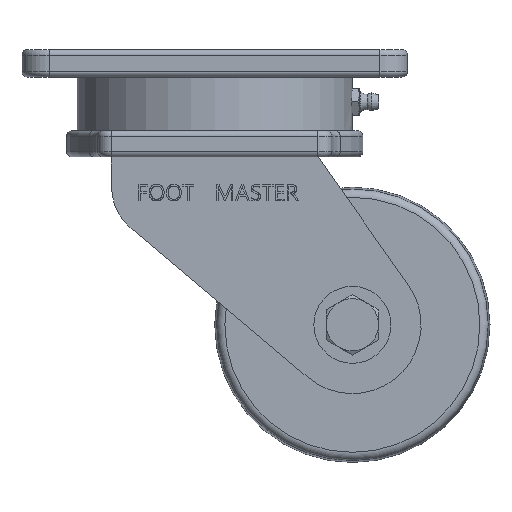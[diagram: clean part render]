
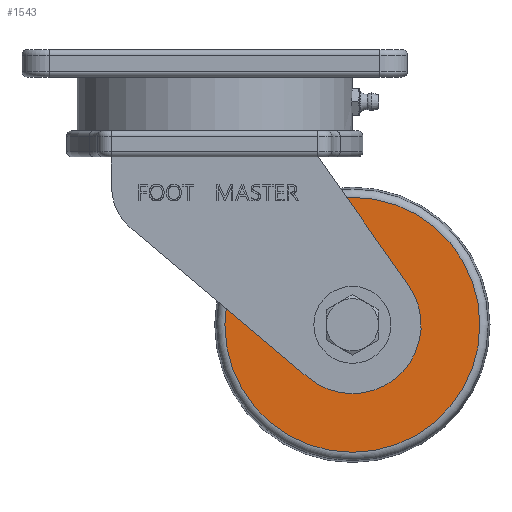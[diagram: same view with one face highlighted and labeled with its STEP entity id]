
A CAD part, front view. The second image highlights one B-rep face of the part: STEP entity #1543.
In plain terms, the highlighted planar face has unit normal (0, -1, 0).
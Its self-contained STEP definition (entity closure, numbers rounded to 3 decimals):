
#1301=CARTESIAN_POINT('',(43.,-41.5,-72.));
#1302=VERTEX_POINT('',#1301);
#1303=CARTESIAN_POINT('',(50.,-41.5,-72.));
#1304=DIRECTION('',(0.0,-1.0,0.0));
#1305=DIRECTION('',(1.0,0.0,0.0));
#1306=AXIS2_PLACEMENT_3D('',#1303,#1304,#1305);
#1307=CIRCLE('',#1306,7.);
#1308=EDGE_CURVE('',#1302,#1302,#1307,.T.);
#1340=CARTESIAN_POINT('',(96.323,-41.5,-72.));
#1341=VERTEX_POINT('',#1340);
#1342=CARTESIAN_POINT('',(50.,-41.5,-72.));
#1343=DIRECTION('',(0.0,-1.0,0.0));
#1344=DIRECTION('',(1.0,0.0,0.0));
#1345=AXIS2_PLACEMENT_3D('',#1342,#1343,#1344);
#1346=CIRCLE('',#1345,46.323);
#1347=EDGE_CURVE('',#1341,#1341,#1346,.T.);
#1532=CARTESIAN_POINT('',(76.661,-41.5,-72.));
#1533=DIRECTION('',(0.0,-1.0,0.0));
#1534=DIRECTION('',(0.0,0.0,-1.0));
#1535=AXIS2_PLACEMENT_3D('',#1532,#1533,#1534);
#1536=PLANE('',#1535);
#1537=ORIENTED_EDGE('',*,*,#1347,.T.);
#1538=EDGE_LOOP('',(#1537));
#1539=FACE_OUTER_BOUND('',#1538,.T.);
#1540=ORIENTED_EDGE('',*,*,#1308,.F.);
#1541=EDGE_LOOP('',(#1540));
#1542=FACE_BOUND('',#1541,.T.);
#1543=ADVANCED_FACE('',(#1539,#1542),#1536,.T.);
